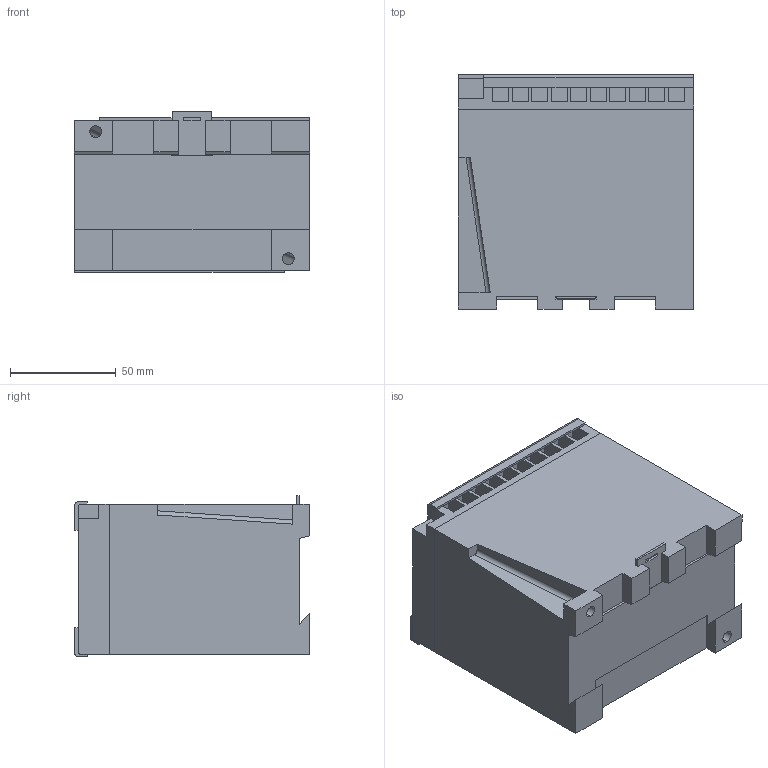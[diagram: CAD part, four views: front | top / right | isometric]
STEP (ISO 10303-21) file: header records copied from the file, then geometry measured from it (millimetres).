
FILE_DESCRIPTION (( 'STEP AP214' ), '1' );
FILE_NAME ('X200.STEP', '2026-08-04T05:39:02', ( '' ), ( '' ), 'SwSTEP 2.0', 'SolidWorks 2024', '' );
FILE_SCHEMA (( 'AUTOMOTIVE_DESIGN' ));
Length unit declared in the file: millimetre
Products named in the file (1): X200
Bounding box: 111 x 110.8 x 76 mm (x, y, z)
Volume: 797137.4 mm3; surface area: 86988.5 mm2
Topology: 5 solids, 5 shells, 278 faces, 790 edges, 526 vertices
Faces by surface type: plane 196, cylinder 82
Entity records: 12171 total; most frequent: CARTESIAN_POINT 1631, ORIENTED_EDGE 1580, DIRECTION 1496, EDGE_CURVE 790, LINE 618, VECTOR 618, VERTEX_POINT 526, AXIS2_PLACEMENT_3D 439
